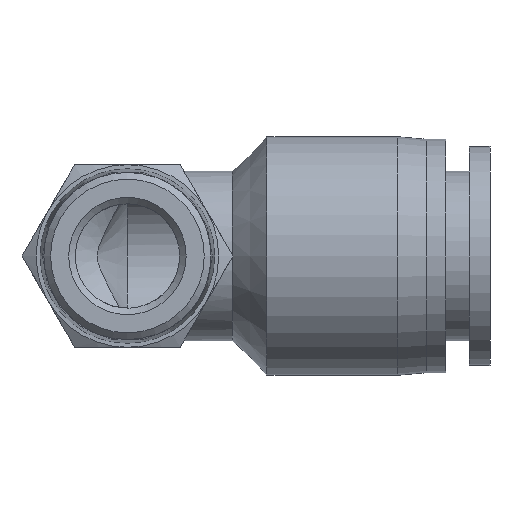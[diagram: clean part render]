
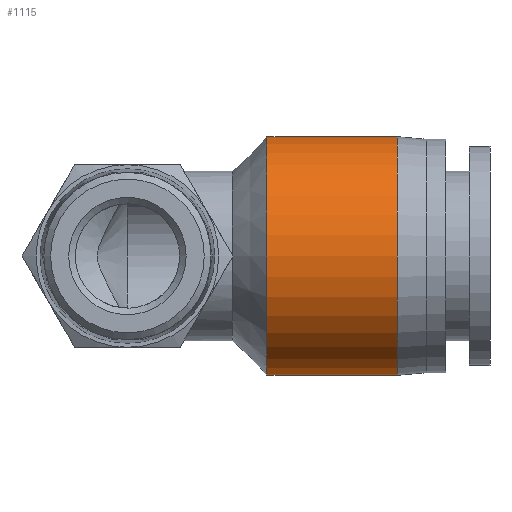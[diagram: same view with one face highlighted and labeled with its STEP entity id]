
A CAD part, front view. The second image highlights one B-rep face of the part: STEP entity #1115.
In plain terms, the highlighted cylindrical face has radius 9.15 mm (diameter 18.3 mm), a full revolution.
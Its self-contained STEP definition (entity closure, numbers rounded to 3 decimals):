
#1081=CARTESIAN_POINT('',(10.7,9.15,0.0));
#1082=VERTEX_POINT('',#1081);
#1083=CARTESIAN_POINT('',(10.7,0.0,0.0));
#1084=DIRECTION('',(1.0,0.0,0.0));
#1085=DIRECTION('',(0.0,1.0,0.0));
#1086=AXIS2_PLACEMENT_3D('',#1083,#1084,#1085);
#1087=CIRCLE('',#1086,9.15);
#1088=EDGE_CURVE('',#1082,#1082,#1087,.T.);
#1096=CARTESIAN_POINT('',(15.7,0.0,0.0));
#1097=DIRECTION('',(1.0,0.0,0.0));
#1098=DIRECTION('',(0.0,1.0,0.0));
#1099=AXIS2_PLACEMENT_3D('',#1096,#1097,#1098);
#1100=CYLINDRICAL_SURFACE('',#1099,9.15);
#1101=CARTESIAN_POINT('',(20.7,9.15,0.0));
#1102=VERTEX_POINT('',#1101);
#1103=CARTESIAN_POINT('',(20.7,0.0,0.0));
#1104=DIRECTION('',(1.0,0.0,0.0));
#1105=DIRECTION('',(0.0,1.0,0.0));
#1106=AXIS2_PLACEMENT_3D('',#1103,#1104,#1105);
#1107=CIRCLE('',#1106,9.15);
#1108=EDGE_CURVE('',#1102,#1102,#1107,.T.);
#1109=ORIENTED_EDGE('',*,*,#1108,.F.);
#1110=EDGE_LOOP('',(#1109));
#1111=FACE_OUTER_BOUND('',#1110,.T.);
#1112=ORIENTED_EDGE('',*,*,#1088,.T.);
#1113=EDGE_LOOP('',(#1112));
#1114=FACE_BOUND('',#1113,.T.);
#1115=ADVANCED_FACE('',(#1111,#1114),#1100,.T.);
